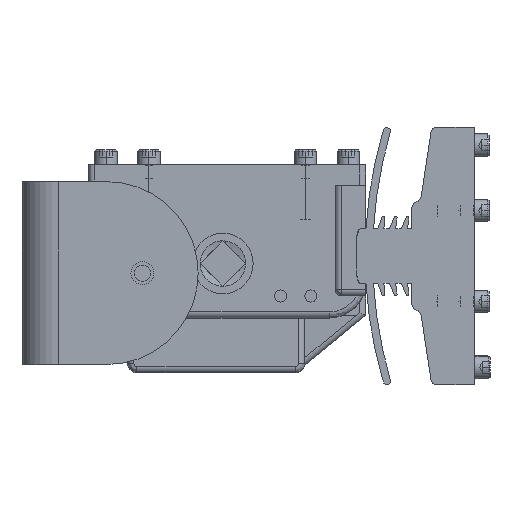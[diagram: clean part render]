
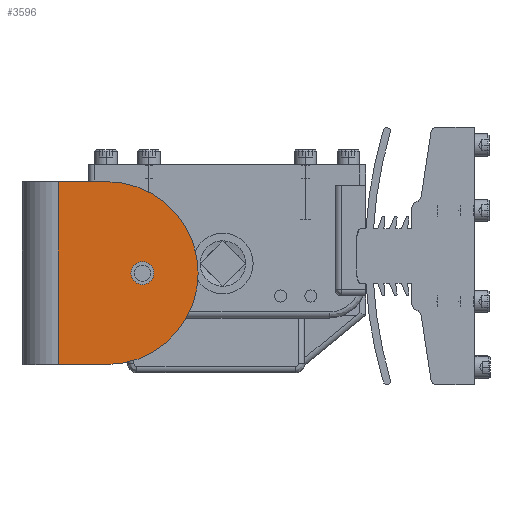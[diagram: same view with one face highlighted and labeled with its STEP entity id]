
A CAD part, left-side view. The second image highlights one B-rep face of the part: STEP entity #3596.
In plain terms, the highlighted planar face has unit normal (-1, 0, 0).
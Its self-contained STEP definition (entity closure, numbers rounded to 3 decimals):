
#700 = DIRECTION ( 'NONE',  ( 0., -1., 0. ) ) ;
#789 = CARTESIAN_POINT ( 'NONE',  ( -206.375, 15.24, -38.354 ) ) ;
#1903 = AXIS2_PLACEMENT_3D ( 'NONE', #17612, #17613, #17614 ) ;
#2002 = AXIS2_PLACEMENT_3D ( 'NONE', #24930, #24931, #24932 ) ;
#3596 = ADVANCED_FACE ( 'NONE', ( #3845, #3850 ), #12171, .F. ) ;
#3845 = FACE_OUTER_BOUND ( 'NONE', #19325, .T. ) ;
#3850 = FACE_BOUND ( 'NONE', #19326, .T. ) ;
#5401 = AXIS2_PLACEMENT_3D ( 'NONE', #12168, #12159, #12158 ) ;
#5618 = CARTESIAN_POINT ( 'NONE',  ( -206.375, 35.56, 0. ) ) ;
#5633 = DIRECTION ( 'NONE',  ( 1., 0., 0. ) ) ;
#5636 = DIRECTION ( 'NONE',  ( 0., 1., 0. ) ) ;
#7208 = CARTESIAN_POINT ( 'NONE',  ( -206.375, 45.72, 0. ) ) ;
#7256 = CARTESIAN_POINT ( 'NONE',  ( -206.375, 35.56, 38.354 ) ) ;
#8335 = CARTESIAN_POINT ( 'NONE',  ( -206.375, 15.24, 38.354 ) ) ;
#12158 = DIRECTION ( 'NONE',  ( 0., 0., -1. ) ) ;
#12159 = DIRECTION ( 'NONE',  ( 1., 0., 0. ) ) ;
#12168 = CARTESIAN_POINT ( 'NONE',  ( -206.375, 15.24, 38.354 ) ) ;
#12171 = PLANE ( 'NONE',  #5401 ) ;
#12593 = LINE ( 'NONE', #17160, #12594 ) ;
#12594 = VECTOR ( 'NONE', #17161, 1000. ) ;
#13444 = CARTESIAN_POINT ( 'NONE',  ( -206.375, 55.372, 0. ) ) ;
#14449 = CARTESIAN_POINT ( 'NONE',  ( -206.375, 73.914, 0. ) ) ;
#14477 = CARTESIAN_POINT ( 'NONE',  ( -206.375, 35.56, -38.354 ) ) ;
#15308 = CIRCLE ( 'NONE', #21490, 4.826 ) ;
#15368 = VECTOR ( 'NONE', #26316, 1000. ) ;
#15369 = LINE ( 'NONE', #26315, #15368 ) ;
#15914 = EDGE_CURVE ( 'NONE', #25974, #19138, #12593, .T. ) ;
#16135 = EDGE_CURVE ( 'NONE', #25183, #25948, #15308, .T. ) ;
#16172 = EDGE_CURVE ( 'NONE', #19138, #19304, #15369, .T. ) ;
#16316 = EDGE_CURVE ( 'NONE', #25948, #25183, #23108, .T. ) ;
#16447 = EDGE_CURVE ( 'NONE', #26005, #26033, #23538, .T. ) ;
#16557 = EDGE_CURVE ( 'NONE', #26033, #25974, #18281, .T. ) ;
#16689 = EDGE_CURVE ( 'NONE', #26005, #19304, #20950, .T. ) ;
#17160 = CARTESIAN_POINT ( 'NONE',  ( -206.375, 15.24, 38.354 ) ) ;
#17161 = DIRECTION ( 'NONE',  ( 0., -1., 0. ) ) ;
#17612 = CARTESIAN_POINT ( 'NONE',  ( -206.375, 50.546, 0. ) ) ;
#17613 = DIRECTION ( 'NONE',  ( -1., 0., 0. ) ) ;
#17614 = DIRECTION ( 'NONE',  ( 0., 1., 0. ) ) ;
#18281 = CIRCLE ( 'NONE', #20804, 38.354 ) ;
#19138 = VERTEX_POINT ( 'NONE', #8335 ) ;
#19304 = VERTEX_POINT ( 'NONE', #26162 ) ;
#19325 = EDGE_LOOP ( 'NONE', ( #20574, #20495, #20427, #20395, #20401 ) ) ;
#19326 = EDGE_LOOP ( 'NONE', ( #20377, #20450 ) ) ;
#20377 = ORIENTED_EDGE ( 'NONE', *, *, #16135, .F. ) ;
#20395 = ORIENTED_EDGE ( 'NONE', *, *, #15914, .F. ) ;
#20401 = ORIENTED_EDGE ( 'NONE', *, *, #16557, .F. ) ;
#20427 = ORIENTED_EDGE ( 'NONE', *, *, #16172, .F. ) ;
#20450 = ORIENTED_EDGE ( 'NONE', *, *, #16316, .F. ) ;
#20495 = ORIENTED_EDGE ( 'NONE', *, *, #16689, .T. ) ;
#20574 = ORIENTED_EDGE ( 'NONE', *, *, #16447, .F. ) ;
#20804 = AXIS2_PLACEMENT_3D ( 'NONE', #5618, #5633, #5636 ) ;
#20949 = VECTOR ( 'NONE', #700, 1000. ) ;
#20950 = LINE ( 'NONE', #789, #20949 ) ;
#21490 = AXIS2_PLACEMENT_3D ( 'NONE', #26194, #26196, #26199 ) ;
#23108 = CIRCLE ( 'NONE', #1903, 4.826 ) ;
#23538 = CIRCLE ( 'NONE', #2002, 38.354 ) ;
#24930 = CARTESIAN_POINT ( 'NONE',  ( -206.375, 35.56, 0. ) ) ;
#24931 = DIRECTION ( 'NONE',  ( 1., 0., 0. ) ) ;
#24932 = DIRECTION ( 'NONE',  ( 0., 1., 0. ) ) ;
#25183 = VERTEX_POINT ( 'NONE', #13444 ) ;
#25948 = VERTEX_POINT ( 'NONE', #7208 ) ;
#25974 = VERTEX_POINT ( 'NONE', #7256 ) ;
#26005 = VERTEX_POINT ( 'NONE', #14477 ) ;
#26033 = VERTEX_POINT ( 'NONE', #14449 ) ;
#26162 = CARTESIAN_POINT ( 'NONE',  ( -206.375, 15.24, -38.354 ) ) ;
#26194 = CARTESIAN_POINT ( 'NONE',  ( -206.375, 50.546, 0. ) ) ;
#26196 = DIRECTION ( 'NONE',  ( -1., 0., 0. ) ) ;
#26199 = DIRECTION ( 'NONE',  ( 0., 1., 0. ) ) ;
#26315 = CARTESIAN_POINT ( 'NONE',  ( -206.375, 15.24, 38.354 ) ) ;
#26316 = DIRECTION ( 'NONE',  ( 0., 0., -1. ) ) ;
